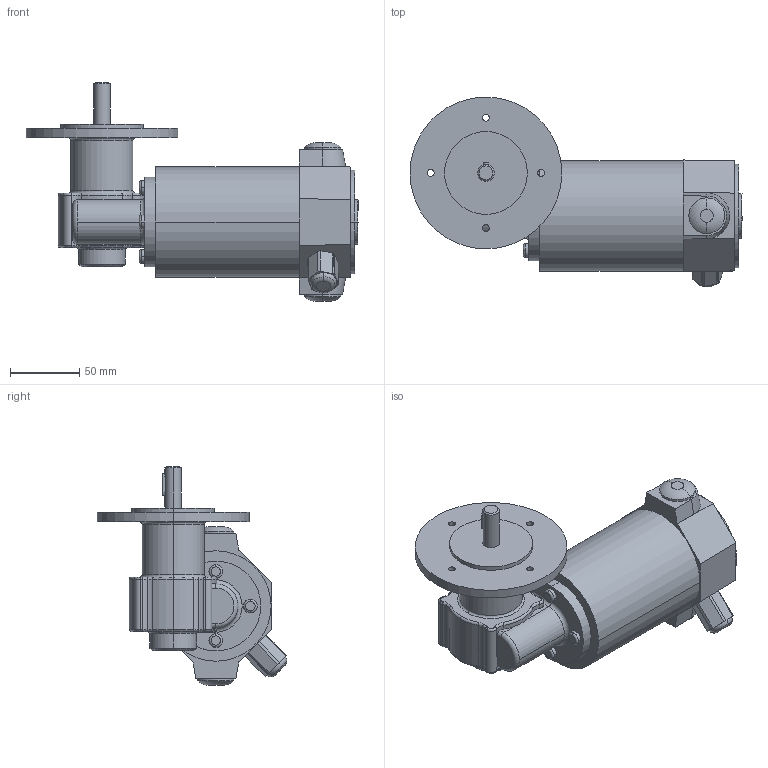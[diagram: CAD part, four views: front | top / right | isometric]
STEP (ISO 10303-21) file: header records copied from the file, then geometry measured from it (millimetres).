
FILE_DESCRIPTION(('OneSpaceDesigner STEP Export'),'2;1');
FILE_NAME('EPG12_GF12-10.stp','2008-07-02T13:19:49',(''),(''),'OneSpace Designer STEP processor (Jan. 2003) for AP214(CD)(Solid Model)','OneSpace Designer 12.01D 09-Jul-2004 (C) CoCreate Software GmbH','');
FILE_SCHEMA(('AUTOMOTIVE_DESIGN_CC2 {1 2 10303 214 -1 1 5 1}'));
Length unit declared in the file: millimetre
Products named in the file (2): EPG12_GF12-10
Assembly tree (1 placements, depth 2):
  EPG12_GF12-10
    EPG12_GF12-10
Bounding box: 240.5 x 137.39 x 158.5 mm (x, y, z)
Volume: 1111433.8 mm3; surface area: 95636.7 mm2
Topology: 1 solids, 1 shells, 217 faces, 522 edges, 324 vertices
Faces by surface type: cylinder 87, torus 74, plane 50, cone 4, bspline 2
Entity records: 8850 total; most frequent: CARTESIAN_POINT 4199, ORIENTED_EDGE 1044, DIRECTION 871, EDGE_CURVE 522, AXIS2_PLACEMENT_3D 357, VERTEX_POINT 324, EDGE_LOOP 242, CIRCLE 217
